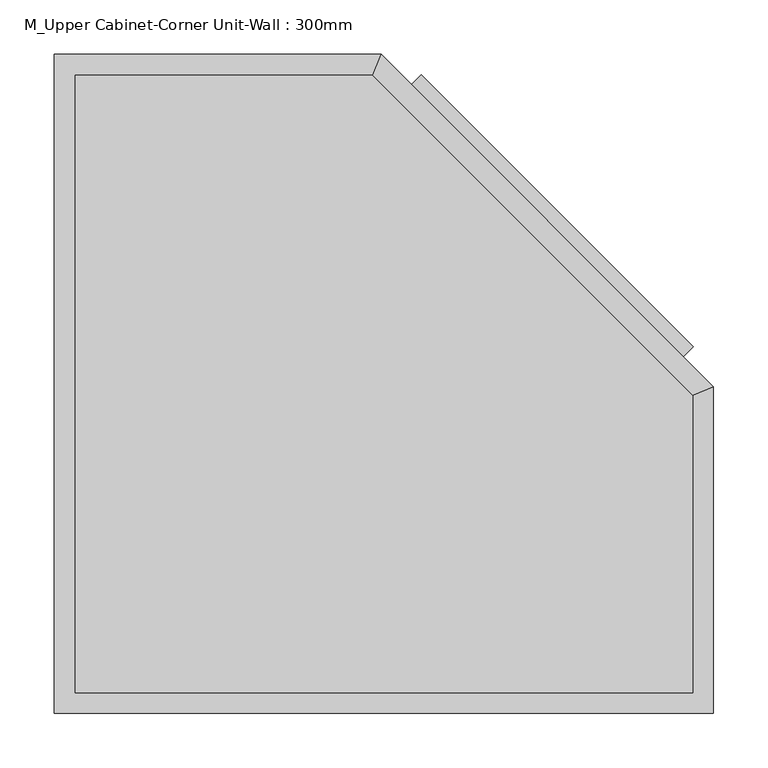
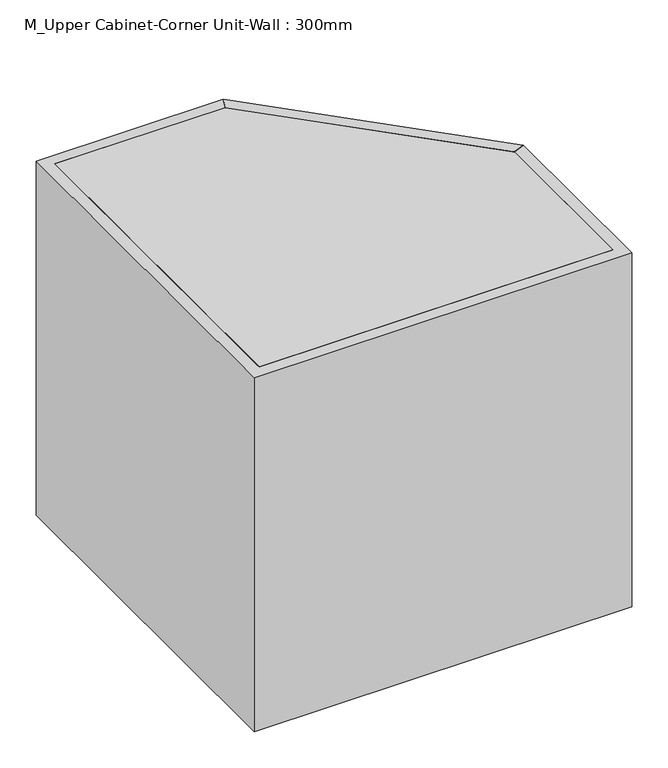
"""IFC4 building model written with IfcOpenShell, lengths in millimetres: furniture geometry, M_Upper Cabinet-Corner Unit-Wall : 300mm."""

from ifc_helpers import new_model, si_unit, frame, origin, place, context, project, spatial, polyline, outline, extrude, faceted_brep, source, transform, mapped, element, save


def m_upper_cabinet_corner_unit_wall_300mm_de248728(model_context):
    return source(origin(), model_context, "Body", "SolidModel", [
        extrude(outline(polyline([(295.0625715, 686.0691036), (544.4402664, 436.6914087), (526.4797541, 418.7308964), (277.1020592, 668.1085913), (295.0625715, 686.0691036)])), frame((0.0, 0.0, 1457.15), z_axis=(0.0, 0.0, 1.0), x_axis=(1.0, 0.0, 0.0)), (0.0, 0.0, 1.0), 485.7),
        faceted_brep([(258.3711628, 704.8, 1400.0), (563.1711628, 400.0, 1400.0), (544.1211628, 392.1092316, 1400.0), (250.4803944, 685.75, 1400.0), (258.3711628, 704.8, 2000.0), (250.4803944, 685.75, 2000.0), (544.1211628, 392.1092316, 2000.0), (563.1711628, 400.0, 2000.0), (535.4600102, 427.7111525, 1942.85), (286.0823153, 677.0888475, 1942.85), (286.0823153, 677.0888475, 1457.15), (535.4600102, 427.7111525, 1457.15), (272.6119312, 663.6184633, 1942.85), (521.9896261, 414.2407684, 1942.85), (521.9896261, 414.2407684, 1457.15), (272.6119312, 663.6184633, 1457.15)], [[[0, 1, 2, 3]], [[4, 5, 6, 7]], [[1, 0, 4, 7], [8, 9, 10, 11]], [[2, 1, 7, 6]], [[3, 2, 6, 5], [12, 13, 14, 15]], [[0, 3, 5, 4]], [[8, 13, 12, 9]], [[10, 15, 14, 11]], [[9, 12, 15, 10]], [[13, 8, 11, 14]]]),
        extrude(outline(polyline([(-22.5788372, 685.75), (250.4803944, 685.75), (544.1211628, 392.1092316), (544.1211628, 119.05), (-22.5788372, 119.05), (-22.5788372, 685.75)])), frame((0.0, 0.0, 1974.6), z_axis=(0.0, 0.0, 1.0), x_axis=(1.0, 0.0, 0.0)), (0.0, 0.0, 1.0), 25.4),
        extrude(outline(polyline([(-22.5788372, 685.75), (250.4803944, 685.75), (544.1211628, 392.1092316), (544.1211628, 119.05), (-22.5788372, 119.05), (-22.5788372, 685.75)])), frame((0.0, 0.0, 1400.0), z_axis=(0.0, 0.0, 1.0), x_axis=(1.0, 0.0, 0.0)), (0.0, 0.0, 1.0), 25.4),
        extrude(outline(polyline([(-41.6288372, 704.8), (258.3711628, 704.8), (250.4803944, 685.75), (-22.5788372, 685.75), (-22.5788372, 119.05), (544.1211628, 119.05), (544.1211628, 392.1092316), (563.1711628, 400.0), (563.1711628, 100.0), (-41.6288372, 100.0), (-41.6288372, 704.8)])), frame((0.0, 0.0, 1400.0), z_axis=(0.0, 0.0, 1.0), x_axis=(1.0, 0.0, 0.0)), (0.0, 0.0, 1.0), 600.0),
    ])


if __name__ == "__main__":
    model = new_model("IFC4")
    model_context = context("Model", 3, world=origin())
    ifc_project = project(units=[si_unit("LENGTHUNIT", "METRE", prefix="MILLI")], contexts=[model_context])
    site = spatial("IfcSite", under=ifc_project)
    building = spatial("IfcBuilding", under=site)
    placement = place(None, origin())
    m_upper_cabinet_corner_unit_wall_300mm_shape = m_upper_cabinet_corner_unit_wall_300mm_de248728(model_context)
    element("IfcFurniture", 1, ObjectType="M_Upper Cabinet-Corner Unit-Wall : 300mm", at=placement, inside=building, context=model_context, shape_type="MappedRepresentation", body=[
        mapped(m_upper_cabinet_corner_unit_wall_300mm_shape, transform((0.0, 0.0, 0.0), x_axis=(1.0, 0.0, 0.0), y_axis=(0.0, 1.0, 0.0), z_axis=(0.0, 0.0, 1.0))),
    ])
    save(model, "model.ifc")
